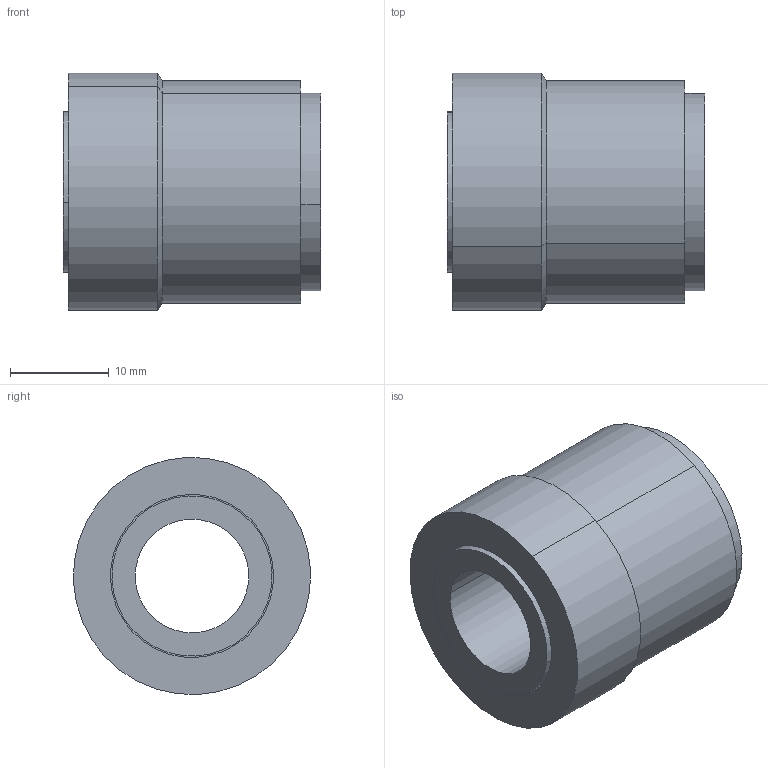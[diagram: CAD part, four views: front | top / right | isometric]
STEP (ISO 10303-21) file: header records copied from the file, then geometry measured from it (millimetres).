
FILE_DESCRIPTION(('Creo Elements/Direct Modeling STEP Export'),'2;1');
FILE_NAME('H07-0015-CL901-01_G22-16.stp','2012-09-28T13:50:53',(''),(''),'Creo Elements/Direct Modeling STEP processor for AP214 (Solid Model)','Creo Elements/Direct Modeling 18.0B 02-Dec-2011 (C) Parametric Technology GmbH','');
FILE_SCHEMA(('AUTOMOTIVE_DESIGN { 1 0 10303 214 1 1 1 1 }'));
Length unit declared in the file: millimetre
Products named in the file (3): G22-16B; G22-16A; G22-16
Assembly tree (2 placements, depth 2):
  G22-16
    G22-16A
    G22-16B
Bounding box: 26 x 23.98 x 23.98 mm (x, y, z)
Volume: 7700.1 mm3; surface area: 6081.6 mm2
Topology: 2 solids, 2 shells, 19 faces, 38 edges, 24 vertices
Faces by surface type: cylinder 12, plane 5, cone 2
Entity records: 527 total; most frequent: DIRECTION 82, ORIENTED_EDGE 76, CARTESIAN_POINT 72, EDGE_CURVE 38, AXIS2_PLACEMENT_3D 34, VERTEX_POINT 24, EDGE_LOOP 24, FACE_OUTER_BOUND 19
